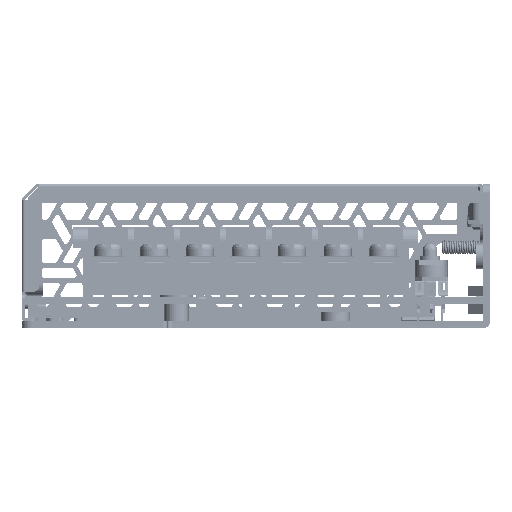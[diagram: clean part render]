
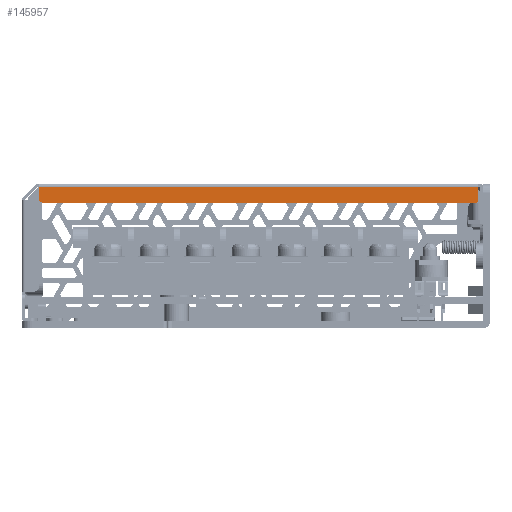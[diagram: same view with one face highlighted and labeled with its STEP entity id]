
A CAD part, left-side view. The second image highlights one B-rep face of the part: STEP entity #145957.
In plain terms, the highlighted free-form (B-spline) face has degree [3, 3] with [4, 4] control points.
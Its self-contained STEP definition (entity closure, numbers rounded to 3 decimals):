
#45619=DIRECTION('',(0.,0.,-1.));
#45620=VECTOR('',#45619,2.9);
#45621=CARTESIAN_POINT('',(-61.5,-46.,29.4));
#45622=LINE('',#45621,#45620);
#45623=CARTESIAN_POINT('',(-61.5,-45.5,26.5));
#45624=DIRECTION('',(1.,0.,0.));
#45625=DIRECTION('',(0.,-1.,0.));
#45626=AXIS2_PLACEMENT_3D('',#45623,#45624,#45625);
#45628=CARTESIAN_POINT('',(-61.5,44.051,27.));
#45629=DIRECTION('',(1.,0.,0.));
#45630=DIRECTION('',(0.,0.,-1.));
#45631=AXIS2_PLACEMENT_3D('',#45628,#45629,#45630);
#45633=DIRECTION('',(0.,-1.,0.));
#45634=VECTOR('',#45633,91.051);
#45635=CARTESIAN_POINT('',(-61.5,45.051,29.4));
#45636=LINE('',#45635,#45634);
#45659=DIRECTION('',(0.,0.,-1.));
#45660=VECTOR('',#45659,2.4);
#45661=CARTESIAN_POINT('',(-61.5,45.051,29.4));
#45662=LINE('',#45661,#45660);
#45679=DIRECTION('',(0.,-1.,0.));
#45680=VECTOR('',#45679,89.551);
#45681=CARTESIAN_POINT('',(-61.5,44.051,26.));
#45682=LINE('',#45681,#45680);
#92966=CARTESIAN_POINT('',(-61.5,45.051,29.4));
#92967=VERTEX_POINT('',#92966);
#92968=CARTESIAN_POINT('',(-61.5,-46.,29.4));
#92969=VERTEX_POINT('',#92968);
#92972=CARTESIAN_POINT('',(-61.5,-46.,26.5));
#92973=VERTEX_POINT('',#92972);
#92974=CARTESIAN_POINT('',(-61.5,-45.5,26.));
#92975=VERTEX_POINT('',#92974);
#92976=CARTESIAN_POINT('',(-61.5,44.051,26.));
#92977=CARTESIAN_POINT('',(-61.5,45.051,27.));
#92978=VERTEX_POINT('',#92976);
#92979=VERTEX_POINT('',#92977);
#145927=CARTESIAN_POINT('',(-61.5,-47.821,29.627));
#145928=CARTESIAN_POINT('',(-61.5,-47.821,28.342));
#145929=CARTESIAN_POINT('',(-61.5,-47.821,27.058));
#145930=CARTESIAN_POINT('',(-61.5,-47.821,25.773));
#145931=CARTESIAN_POINT('',(-61.5,-16.257,29.627));
#145932=CARTESIAN_POINT('',(-61.5,-16.257,28.342));
#145933=CARTESIAN_POINT('',(-61.5,-16.257,27.058));
#145934=CARTESIAN_POINT('',(-61.5,-16.257,25.773));
#145935=CARTESIAN_POINT('',(-61.5,15.308,29.627));
#145936=CARTESIAN_POINT('',(-61.5,15.308,28.342));
#145937=CARTESIAN_POINT('',(-61.5,15.308,27.058));
#145938=CARTESIAN_POINT('',(-61.5,15.308,25.773));
#145939=CARTESIAN_POINT('',(-61.5,46.873,29.627));
#145940=CARTESIAN_POINT('',(-61.5,46.873,28.342));
#145941=CARTESIAN_POINT('',(-61.5,46.873,27.058));
#145942=CARTESIAN_POINT('',(-61.5,46.873,25.773));
#145943=B_SPLINE_SURFACE_WITH_KNOTS('',3,3,((#145927,#145928,#145929,#145930),(
#145931,#145932,#145933,#145934),(#145935,#145936,#145937,#145938),(#145939,
#145940,#145941,#145942)),.UNSPECIFIED.,.F.,.F.,.F.,(4,4),(4,4),(
-93.073,1.621),(0.373,4.227),
.UNSPECIFIED.);
#145944=ORIENTED_EDGE('',*,*,#145917,.T.);
#145946=ORIENTED_EDGE('',*,*,#145945,.T.);
#145948=ORIENTED_EDGE('',*,*,#145947,.F.);
#145950=ORIENTED_EDGE('',*,*,#145949,.T.);
#145952=ORIENTED_EDGE('',*,*,#145951,.F.);
#145954=ORIENTED_EDGE('',*,*,#145953,.T.);
#145955=EDGE_LOOP('',(#145944,#145946,#145948,#145950,#145952,#145954));
#145956=FACE_OUTER_BOUND('',#145955,.F.);
#145957=ADVANCED_FACE('',(#145956),#145943,.T.);
#45627=CIRCLE('',#45626,0.5);
#45632=CIRCLE('',#45631,1.);
#145917=EDGE_CURVE('',#92969,#92973,#45622,.T.);
#145945=EDGE_CURVE('',#92973,#92975,#45627,.T.);
#145947=EDGE_CURVE('',#92978,#92975,#45682,.T.);
#145949=EDGE_CURVE('',#92978,#92979,#45632,.T.);
#145951=EDGE_CURVE('',#92967,#92979,#45662,.T.);
#145953=EDGE_CURVE('',#92967,#92969,#45636,.T.);
